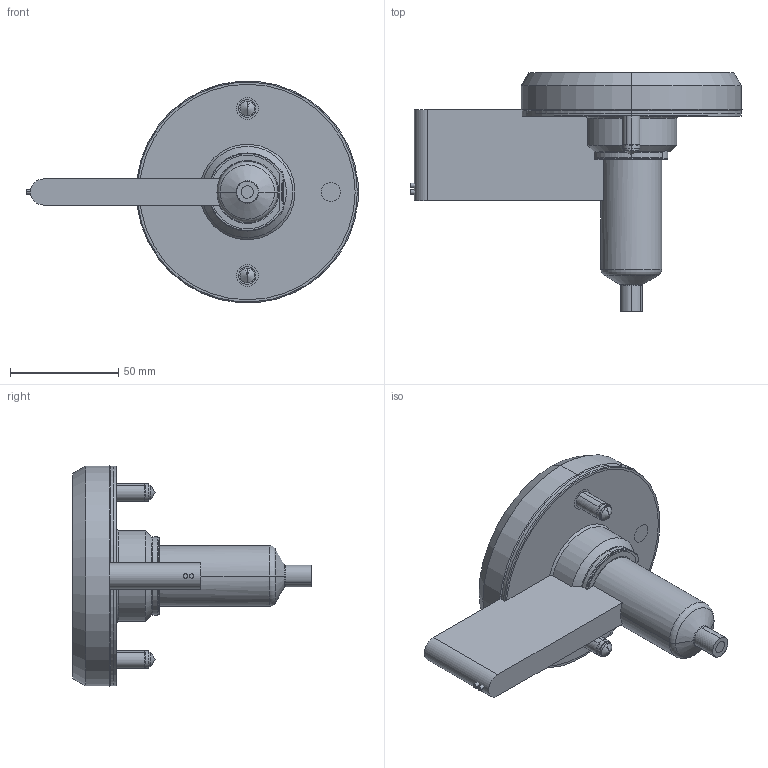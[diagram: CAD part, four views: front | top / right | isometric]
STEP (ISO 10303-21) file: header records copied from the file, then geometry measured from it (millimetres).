
FILE_DESCRIPTION (( 'STEP AP214' ), '1' );
FILE_NAME ('SOHSB6060-SOSRT0602.STEP', '2024-11-29T06:27:34', ( '' ), ( '' ), 'SwSTEP 2.0', 'SolidWorks 2022', '' );
FILE_SCHEMA (( 'AUTOMOTIVE_DESIGN' ));
Length unit declared in the file: millimetre
Products named in the file (9): EcoONE-HSB06-Open Gate Extended Sprue Tip_SOSRT0602; EcoONE-HSB06-06003(A)_SOHSBNB6060; EcoONE-HSB06-00002(A)_SOHSBLR06; EcoONE-HSB06-06006(A)_SONHC06; hexagon socket head cap screws gb_GB_FASTENER_SCREWS_HSHCS M8X25-C; EcoONE-HSB06-06004_SONH18055; EcoONE-HSB06-Open Gate Cut-out Details_Ext Sprue Gate or Full Body Gate; SOHSB6060-SOSRT0602; EcoONE-HSB06-06005_SOTC10200-J
Assembly tree (10 placements, depth 2):
  SOHSB6060-SOSRT0602
    EcoONE-HSB06-06003(A)_SOHSBNB6060
    EcoONE-HSB06-06004_SONH18055
    EcoONE-HSB06-06005_SOTC10200-J
    EcoONE-HSB06-06006(A)_SONHC06  x2
    EcoONE-HSB06-00002(A)_SOHSBLR06
    hexagon socket head cap screws gb_GB_FASTENER_SCREWS_HSHCS M8X25-C  x2
    EcoONE-HSB06-Open Gate Extended Sprue Tip_SOSRT0602
    EcoONE-HSB06-Open Gate Cut-out Details_Ext Sprue Gate or Full Body Gate
Bounding box: 153.01 x 110 x 102.14 mm (x, y, z)
Volume: 285857.5 mm3; surface area: 82604.1 mm2
Topology: 10 solids, 10 shells, 492 faces, 1248 edges, 788 vertices
Faces by surface type: cylinder 152, plane 125, bspline 110, cone 75, torus 22, sphere 8
Entity records: 29977 total; most frequent: CARTESIAN_POINT 19130, ORIENTED_EDGE 2276, DIRECTION 1821, EDGE_CURVE 1138, AXIS2_PLACEMENT_3D 735, VERTEX_POINT 725, EDGE_LOOP 491, ADVANCED_FACE 451
